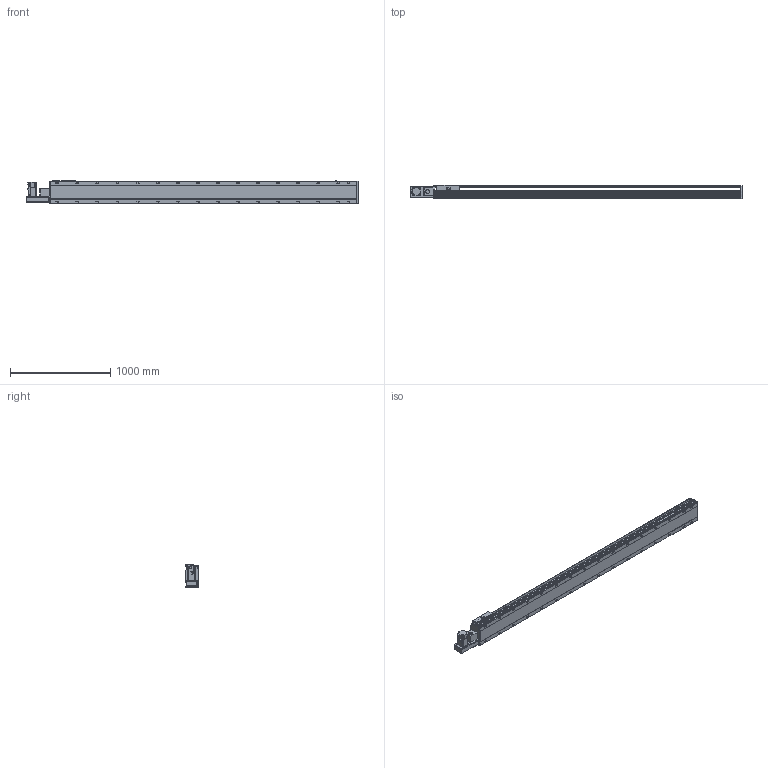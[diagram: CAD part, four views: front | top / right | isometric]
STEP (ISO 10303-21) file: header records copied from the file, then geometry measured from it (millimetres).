
FILE_DESCRIPTION(/* description */ ('STEP AP214'),/* implementation_level */ '2;1');
FILE_NAME(/* name */ 'PBS220-P40-S2700-L-T75-C1-N(0)',/* time_stamp */ '2022-06-11T09:57:59+02:00',/* author */ ('License CC BY-ND 4.0'),/* organization */ ('CADENAS'),/* preprocessor_version */ 'ST-DEVELOPER v18.102',/* originating_system */ 'PARTsolutions',/* authorisation */ ' ');
FILE_SCHEMA (('AUTOMOTIVE_DESIGN {1 0 10303 214 3 1 1}'));
Length unit declared in the file: millimetre
Products named in the file (7): PBS220-P40-S2700-L-T75-C1-N(0); PBS220_sensor; PBS220_plant; PBS220_sliser; T75-p1; PBS220T-L_motors; PBS220-S2700()_body
Assembly tree (8 placements, depth 2):
  PBS220-P40-S2700-L-T75-C1-N(0)
    PBS220_sensor  x3
    PBS220_plant
    PBS220_sliser
    T75-p1
    PBS220T-L_motors
    PBS220-S2700()_body
Bounding box: 3306 x 134 x 238.5 mm (x, y, z)
Volume: 44349341.7 mm3; surface area: 4049447.5 mm2
Topology: 8 solids, 8 shells, 1010 faces, 2620 edges, 1702 vertices
Faces by surface type: plane 630, cylinder 324, cone 56
Full cylindrical faces by diameter (mm): 2.013 x4, 4.5 x14, 4.917 x4, 6 x7, 6.647 x8, 8 x10, 8.376 x32, 8.5 x32, 10 x6, 14 x32, 38 x2, 40 x1, 70 x1
Entity records: 28125 total; most frequent: CARTESIAN_POINT 5020, DIRECTION 4887, ORIENTED_EDGE 4394, EDGE_CURVE 2197, AXIS2_PLACEMENT_3D 1763, VERTEX_POINT 1544, LINE 1361, VECTOR 1361
